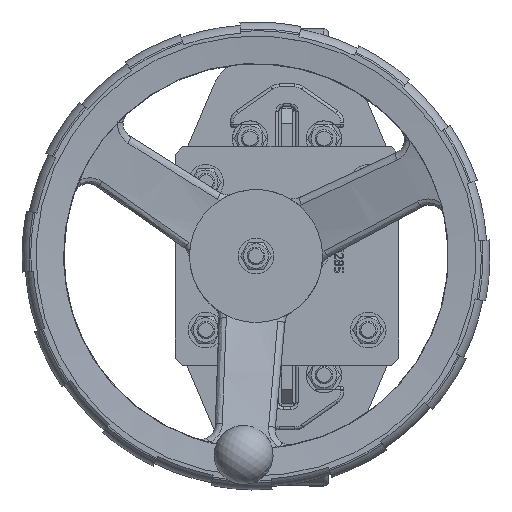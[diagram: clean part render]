
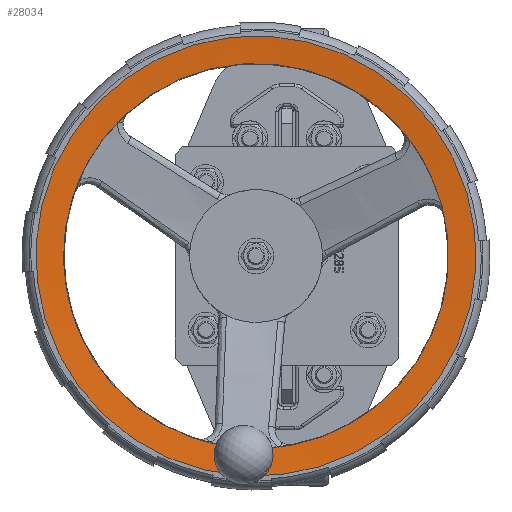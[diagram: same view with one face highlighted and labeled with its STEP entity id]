
A CAD part, top view. The second image highlights one B-rep face of the part: STEP entity #28034.
In plain terms, the highlighted conical face has half-angle 85 degrees and reference radius 139.655 mm.
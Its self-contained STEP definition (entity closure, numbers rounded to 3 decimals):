
#1729=(
BOUNDED_CURVE()
B_SPLINE_CURVE(2,(#43979,#43980,#43981),.UNSPECIFIED.,.F.,.F.)
B_SPLINE_CURVE_WITH_KNOTS((3,3),(30.11,30.242),
 .UNSPECIFIED.)
CURVE()
GEOMETRIC_REPRESENTATION_ITEM()
RATIONAL_B_SPLINE_CURVE((1.105,1.066,1.026))
REPRESENTATION_ITEM('')
);
#1730=(
BOUNDED_CURVE()
B_SPLINE_CURVE(2,(#44041,#44042,#44043),.UNSPECIFIED.,.F.,.F.)
B_SPLINE_CURVE_WITH_KNOTS((3,3),(0.043,0.176),
 .UNSPECIFIED.)
CURVE()
GEOMETRIC_REPRESENTATION_ITEM()
RATIONAL_B_SPLINE_CURVE((1.026,1.066,1.105))
REPRESENTATION_ITEM('')
);
#1909=B_SPLINE_CURVE_WITH_KNOTS('',3,(#43897,#43898,#43899,#43900,#43901,
#43902,#43903),.UNSPECIFIED.,.F.,.F.,(4,3,4),(-0.377,0.,0.165),
 .UNSPECIFIED.);
#1912=B_SPLINE_CURVE_WITH_KNOTS('',3,(#43914,#43915,#43916,#43917,#43918,
#43919),.UNSPECIFIED.,.F.,.F.,(4,2,4),(4.701,4.866,
5.243),.UNSPECIFIED.);
#2905=CIRCLE('',#29808,147.454);
#2909=CIRCLE('',#29820,130.309);
#2910=CIRCLE('',#29821,149.);
#2911=CIRCLE('',#29822,149.);
#2912=CIRCLE('',#29823,130.309);
#4487=CONICAL_SURFACE('',#29819,139.654,1.484);
#4683=FACE_OUTER_BOUND('',#6359,.T.);
#6359=EDGE_LOOP('',(#19435,#19436,#19437,#19438,#19439,#19440,#19441,#19442,
#19443,#19444,#19445));
#8065=LINE('',#44048,#9975);
#9975=VECTOR('',#33415,139.654);
#12049=VERTEX_POINT('',#43846);
#12050=VERTEX_POINT('',#43847);
#12059=VERTEX_POINT('',#43895);
#12060=VERTEX_POINT('',#43896);
#12061=VERTEX_POINT('',#43908);
#12062=VERTEX_POINT('',#43913);
#12069=VERTEX_POINT('',#44045);
#12070=VERTEX_POINT('',#44047);
#12071=VERTEX_POINT('',#44049);
#14830=EDGE_CURVE('',#12049,#12050,#2905,.T.);
#14841=EDGE_CURVE('',#12059,#12060,#1909,.T.);
#14844=EDGE_CURVE('',#12062,#12061,#1912,.T.);
#14851=EDGE_CURVE('',#12060,#12049,#1729,.T.);
#14857=EDGE_CURVE('',#12050,#12062,#1730,.T.);
#14858=EDGE_CURVE('',#12061,#12069,#2909,.T.);
#14859=EDGE_CURVE('',#12069,#12070,#8065,.T.);
#14860=EDGE_CURVE('',#12071,#12070,#2910,.T.);
#14861=EDGE_CURVE('',#12070,#12071,#2911,.T.);
#14862=EDGE_CURVE('',#12069,#12059,#2912,.T.);
#19435=ORIENTED_EDGE('',*,*,#14841,.T.);
#19436=ORIENTED_EDGE('',*,*,#14851,.T.);
#19437=ORIENTED_EDGE('',*,*,#14830,.T.);
#19438=ORIENTED_EDGE('',*,*,#14857,.T.);
#19439=ORIENTED_EDGE('',*,*,#14844,.T.);
#19440=ORIENTED_EDGE('',*,*,#14858,.T.);
#19441=ORIENTED_EDGE('',*,*,#14859,.T.);
#19442=ORIENTED_EDGE('',*,*,#14860,.F.);
#19443=ORIENTED_EDGE('',*,*,#14861,.F.);
#19444=ORIENTED_EDGE('',*,*,#14859,.F.);
#19445=ORIENTED_EDGE('',*,*,#14862,.T.);
#28034=ADVANCED_FACE('',(#4683),#4487,.F.);
#29808=AXIS2_PLACEMENT_3D('',#43848,#33381,#33382);
#29819=AXIS2_PLACEMENT_3D('',#44044,#33411,#33412);
#29820=AXIS2_PLACEMENT_3D('',#44046,#33413,#33414);
#29821=AXIS2_PLACEMENT_3D('',#44050,#33416,#33417);
#29822=AXIS2_PLACEMENT_3D('',#44051,#33418,#33419);
#29823=AXIS2_PLACEMENT_3D('',#44052,#33420,#33421);
#33381=DIRECTION('center_axis',(0.,0.,
-1.));
#33382=DIRECTION('ref_axis',(-0.833,0.553,0.));
#33411=DIRECTION('center_axis',(0.,0.,
1.));
#33412=DIRECTION('ref_axis',(-0.833,0.553,0.));
#33413=DIRECTION('center_axis',(0.,0.,
-1.));
#33414=DIRECTION('ref_axis',(-0.833,0.553,0.));
#33415=DIRECTION('',(0.83,-0.551,0.087));
#33416=DIRECTION('center_axis',(0.,0.,
-1.));
#33417=DIRECTION('ref_axis',(-0.833,0.553,0.));
#33418=DIRECTION('center_axis',(0.,0.,
-1.));
#33419=DIRECTION('ref_axis',(-0.833,0.553,0.));
#33420=DIRECTION('center_axis',(0.,0.,
-1.));
#33421=DIRECTION('ref_axis',(-0.833,0.553,0.));
#43846=CARTESIAN_POINT('',(-15.187,-147.339,559.5));
#43847=CARTESIAN_POINT('',(-45.128,-145.467,559.5));
#43848=CARTESIAN_POINT('Origin',(-21.,0.,
559.5));
#43895=CARTESIAN_POINT('',(-15.137,-130.177,558.));
#43896=CARTESIAN_POINT('',(-14.457,-135.673,558.483));
#43897=CARTESIAN_POINT('Ctrl Pts',(-15.137,-130.177,
558.));
#43898=CARTESIAN_POINT('Ctrl Pts',(-14.733,-131.445,558.112));
#43899=CARTESIAN_POINT('Ctrl Pts',(-14.507,-132.753,558.228));
#43900=CARTESIAN_POINT('Ctrl Pts',(-14.446,-134.004,
558.337));
#43901=CARTESIAN_POINT('Ctrl Pts',(-14.419,-134.552,
558.385));
#43902=CARTESIAN_POINT('Ctrl Pts',(-14.422,-135.11,
558.434));
#43903=CARTESIAN_POINT('Ctrl Pts',(-14.457,-135.673,558.483));
#43908=CARTESIAN_POINT('',(-43.038,-128.432,558.));
#43913=CARTESIAN_POINT('',(-44.398,-133.8,558.483));
#43914=CARTESIAN_POINT('Ctrl Pts',(-44.398,-133.8,
558.483));
#43915=CARTESIAN_POINT('Ctrl Pts',(-44.363,-133.237,
558.434));
#43916=CARTESIAN_POINT('Ctrl Pts',(-44.296,-132.683,
558.385));
#43917=CARTESIAN_POINT('Ctrl Pts',(-43.985,-130.909,
558.228));
#43918=CARTESIAN_POINT('Ctrl Pts',(-43.598,-129.64,
558.112));
#43919=CARTESIAN_POINT('Ctrl Pts',(-43.038,-128.432,
558.));
#43979=CARTESIAN_POINT('Ctrl Pts',(-14.457,-135.673,558.483));
#43980=CARTESIAN_POINT('Ctrl Pts',(-14.807,-141.267,558.97));
#43981=CARTESIAN_POINT('Ctrl Pts',(-15.187,-147.339,
559.5));
#44041=CARTESIAN_POINT('Ctrl Pts',(-45.128,-145.467,
559.5));
#44042=CARTESIAN_POINT('Ctrl Pts',(-44.748,-139.394,
558.97));
#44043=CARTESIAN_POINT('Ctrl Pts',(-44.398,-133.8,
558.483));
#44044=CARTESIAN_POINT('Origin',(-21.,0.,
558.818));
#44045=CARTESIAN_POINT('',(87.563,-72.072,558.));
#44046=CARTESIAN_POINT('Origin',(-21.,0.,
558.));
#44047=CARTESIAN_POINT('',(103.135,-82.41,559.635));
#44048=CARTESIAN_POINT('',(95.349,-77.241,558.818));
#44049=CARTESIAN_POINT('',(-145.135,82.41,559.635));
#44050=CARTESIAN_POINT('Origin',(-21.,0.,
559.635));
#44051=CARTESIAN_POINT('Origin',(-21.,0.,
559.635));
#44052=CARTESIAN_POINT('Origin',(-21.,0.,
558.));
